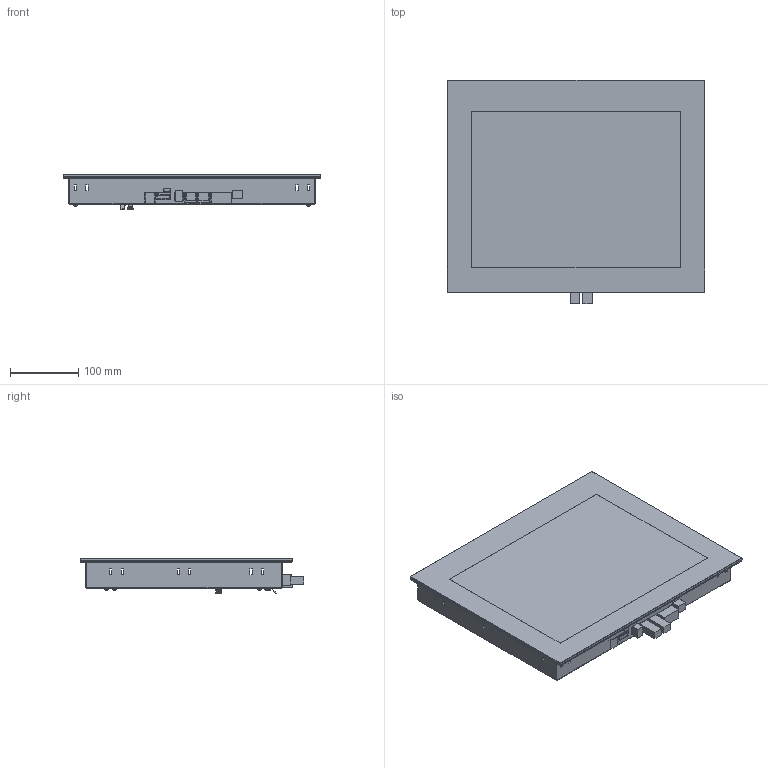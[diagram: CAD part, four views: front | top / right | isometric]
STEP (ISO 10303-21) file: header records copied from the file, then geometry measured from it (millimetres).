
FILE_DESCRIPTION (( 'STEP AP214' ), '1' );
FILE_NAME ('01-230-1533 ETT1533.STEP', '2017-08-31T11:17:22', ( 'SIGMATEK GmbH & Co KG' ), ( 'SIGMATEK GmbH & Co KG' ), 'SwSTEP 2.0', 'SolidWorks 2017', '' );
FILE_SCHEMA (( 'AUTOMOTIVE_DESIGN' ));
Length unit declared in the file: millimetre
Products named in the file (15): 125500-KPL-00_Best…kung Terminal 2015; 125500 (Leiterplatte); 15 Zoll Terminal_HT-Tech_07012016; Halsschraube M2,5x12,3 21101749; ZM1607-3920-10 Batteriedeckel ETTXX33; NTS Einpressnippel MSvernickelt 21100659; ZM1607-3920-10 Batteriedeckel ETTXX33_Ohne Beschriftung; Serienetikett 65x13mm; 3030301010 - 1 Flachkopfschraube ISO 7045 (DIN 7985) M3 x 6 - Z7 - 4.8 Torx; 3030261492 Steckzunge 6,3 m.B. M3 DIN46244 St-verzinnt; 3030301126 Linsenflanschkopf ISO7380 (Torx) - M3x8 Teclack_0304055923 Button head socket screw ISO 7380 M4x35; ZM1607-3657-12 ETT1533 Abdeckhaube; s_m3_0; 01-230-1533 ETT1533
Assembly tree (19 placements, depth 3):
  01-230-1533 ETT1533
    ZM1607-3657-12 ETT1533 Abdeckhaube
      ZM1607-3657-12 ETT1533 Abdeckhaube
      s_m3_0  x3
    3030301126 Linsenflanschkopf ISO7380 (Torx) - M3x8 Teclack_0304055923 Button head socket screw ISO 7380 M4x35  x4
    3030261492 Steckzunge 6,3 m.B. M3 DIN46244 St-verzinnt
    3030301010 - 1 Flachkopfschraube ISO 7045 (DIN 7985) M3 x 6 - Z7 - 4.8 Torx
    Serienetikett 65x13mm
    ZM1607-3920-10 Batteriedeckel ETTXX33
      ZM1607-3920-10 Batteriedeckel ETTXX33_Ohne Beschriftung
      NTS Einpressnippel MSvernickelt 21100659
    Halsschraube M2,5x12,3 21101749
    15 Zoll Terminal_HT-Tech_07012016
    125500-KPL-00_Best…kung Terminal 2015
      125500 (Leiterplatte)
Bounding box: 376.13 x 326.8 x 51.57 mm (x, y, z)
Volume: 671936 mm3; surface area: 588284.4 mm2
Topology: 22 solids, 22 shells, 1068 faces, 2735 edges, 1749 vertices
Faces by surface type: plane 664, cylinder 196, bspline 86, cone 80, torus 34, sphere 8
Entity records: 35750 total; most frequent: CARTESIAN_POINT 9128, ORIENTED_EDGE 4750, DIRECTION 4153, EDGE_CURVE 2375, LINE 1839, VECTOR 1839, VERTEX_POINT 1542, AXIS2_PLACEMENT_3D 1157
